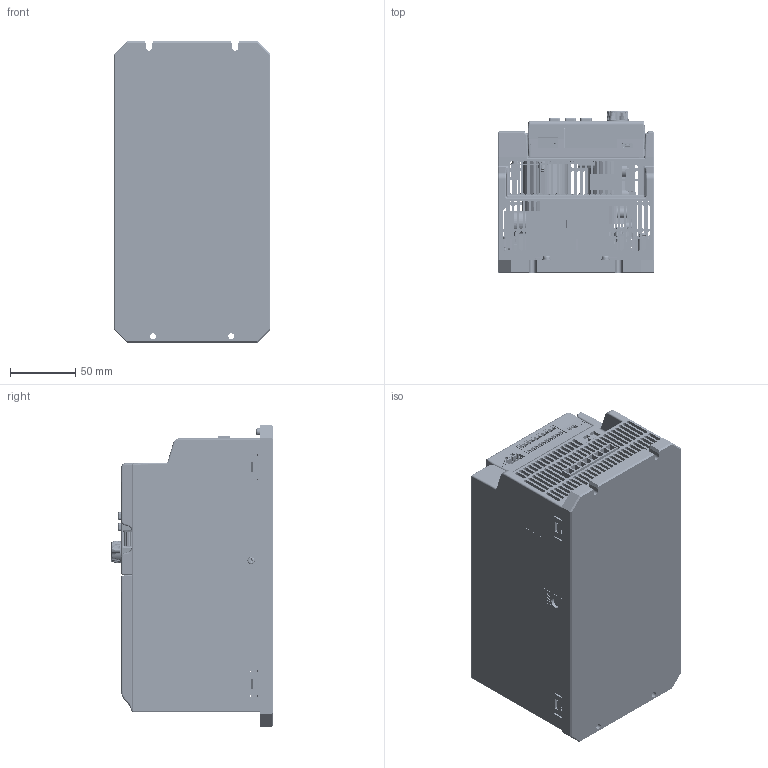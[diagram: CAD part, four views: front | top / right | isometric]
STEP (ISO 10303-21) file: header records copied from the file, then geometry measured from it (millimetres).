
FILE_DESCRIPTION((''),'2;1');
FILE_NAME('00-D_3PH','2019-01-24T08:29:00',('LIW2XI'),(''),'CREO PARAMETRIC BY PTC INC, 2017260','CREO PARAMETRIC BY PTC INC, 2017260','');
FILE_SCHEMA(('AUTOMOTIVE_DESIGN { 1 0 10303 214 1 1 1 1 }'));
Products named in the file (755): HEATSINK; EMC-01; LDZHJ_SZCYZT_M3X8; P_PCB-HOLDER2014_04_10; _GND_DIANPIAN; LDZHJ_SZCYZT_M3X12; BOARD_20151119; SPHERE-25516_20151119; 623455408_20151119; CYLINDER-25570_20151119; 623457208_20151119; CYLINDER-25716_20151119; 623455528_20151119; SPHERE-25862_20151119; 623455168_20151119; CYLINDER-25916_20151119; 623454928_20151119; CYLINDER-26062_20151119; 623461768_20151119; CYLINDER-26208_20151119; 623462008_20151119; RS101_20151119; CYLINDER-26393_20151119; 623448568_20151119; CYLINDER-26539_20151119; 623445568_20151119; CYLINDER-26690_20151119; 623445808_20151119; RV100_20151119; CYLINDER-26880_20151119; 623444128_20151119; CYLINDER-27026_20151119; 623447728_20151119; CYLINDER-27177_20151119; 623447608_20151119; RV101_20151119; RV102_20151119; EXTRUDED-27475_20151119; 1075658784_20151119; EXTRUDED-27847_20151119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
Assembly tree (1514 placements, depth 8):
  00-D_3PH
    00-D-S
      HEATSINK
      EMC-01
      LDZHJ_SZCYZT_M3X8  x13
      P_PCB-HOLDER2014_04_10
      _GND_DIANPIAN  x2
      LDZHJ_SZCYZT_M3X12  x3
      PCBA_YMB_20151119
        PCB_20151119
          BOARD_20151119
          RS101_20151119
            623455408_20151119
              SPHERE-25516_20151119
            623457208_20151119
              CYLINDER-25570_20151119
            623455528_20151119
              CYLINDER-25716_20151119
            623455168_20151119
              SPHERE-25862_20151119
            623454928_20151119
              CYLINDER-25916_20151119
            623461768_20151119
              CYLINDER-26062_20151119
            623462008_20151119
              CYLINDER-26208_20151119
          RV100_20151119
            623448568_20151119
              CYLINDER-26393_20151119
            623445568_20151119  x2
              CYLINDER-26539_20151119
            623445808_20151119  x2
              CYLINDER-26690_20151119
          RV101_20151119
            623444128_20151119
              CYLINDER-26880_20151119
            623447728_20151119  x2
              CYLINDER-27026_20151119
            623447608_20151119  x2
              CYLINDER-27177_20151119
          RV102_20151119
            623444128_20151119
              CYLINDER-26880_20151119
            623447728_20151119  x2
              CYLINDER-27026_20151119
            623447608_20151119  x2
              CYLINDER-27177_20151119
          U41_20151119
            1075658784_20151119  x5
              EXTRUDED-27475_20151119
            1075668768_20151119  x5
              EXTRUDED-27847_20151119
            1075659296_20151119  x5
              EXTRUDED-28219_20151119
            1075659424_20151119
              EXTRUDED-28591_20151119
          U21_20151119
            1075668384_20151119  x5
              EXTRUDED-29106_20151119
            1075659040_20151119  x5
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Bounding box: 120.3 x 124.55 x 231 mm (x, y, z)
Volume: 936229.5 mm3; surface area: 608683.6 mm2
Topology: 986 solids, 992 shells, 16428 faces, 40201 edges, 26056 vertices
Faces by surface type: plane 11532, cylinder 3047, bspline 812, torus 387, cone 310, sphere 189, extrusion 151
Entity records: 477075 total; most frequent: CARTESIAN_POINT 111654, DIRECTION 56327, ORIENTED_EDGE 53218, EDGE_CURVE 26609, PRESENTATION_STYLE_ASSIGNMENT 19641, VECTOR 19365, LINE 19214, STYLED_ITEM 18501
